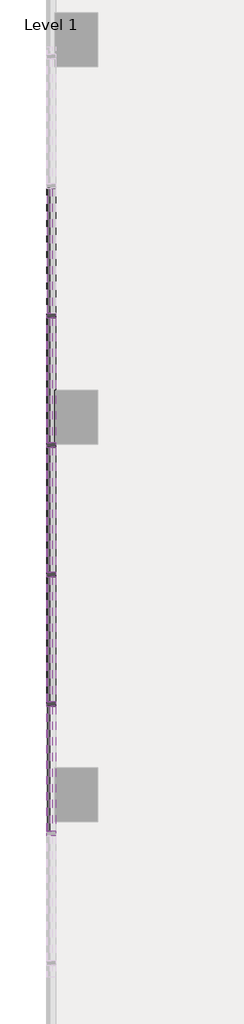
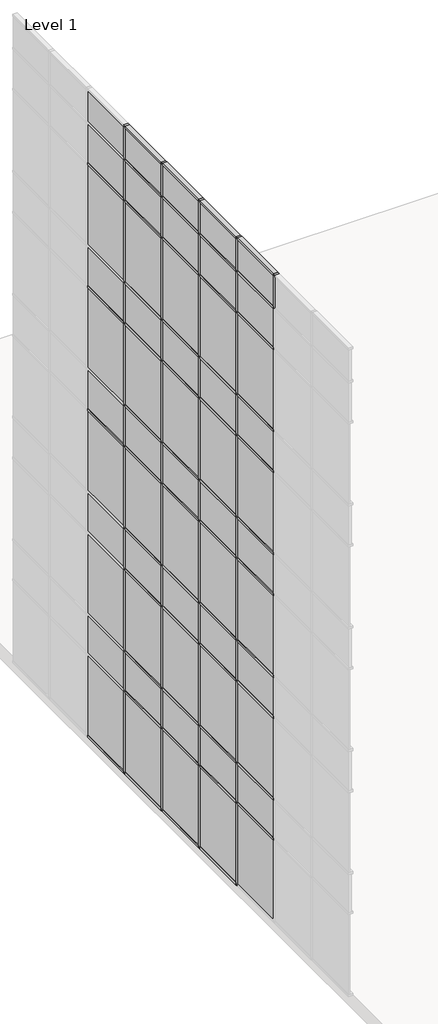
# One storey, part 3 of 23: 76 members, 55 plates.
"""IFC4 building model written with IfcOpenShell, lengths in millimetres."""

from ifc_helpers import new_model, si_unit, origin, place, context, project, spatial, transform, mapped, element, save
from components import member_f92b8aa2, member_810865a4, member_6d5c3e5e, member_9764dd38, system_panel_glazed_14c75400, system_panel_solid_5dfe6f83, system_panel_solid_e25e2004, system_panel_solid_b7551183

model = new_model("IFC4")

# Units and contexts
model_context = context("Model", 3, world=origin())
ifc_project = project(units=[si_unit("LENGTHUNIT", "METRE", prefix="MILLI")], contexts=[model_context])

# Site, building, storey
site = spatial("IfcSite", under=ifc_project)
building = spatial("IfcBuilding", under=site)
storey = spatial("IfcBuildingStorey", under=building, Name="Level 1", Elevation=0.0)

# Members
placement = place(None, origin())
member_shape = member_f92b8aa2(model_context)
element("IfcMember", 1, ObjectType="Rectangular Mullion : 2.5\" x 5\" rectangular", at=placement, inside=storey, context=model_context, shape_type="MappedRepresentation", body=[
    mapped(member_shape, transform((-68724.2599961, -14912.3103492, 18288.0), x_axis=(0.0, 1.0, 0.0), y_axis=(1.0, 0.0, 0.0), z_axis=(0.0, 0.0, -1.0))),
])
element("IfcMember", 2, ObjectType="Rectangular Mullion : 2.5\" x 5\" rectangular", at=placement, inside=storey, context=model_context, shape_type="MappedRepresentation", body=[
    mapped(member_shape, transform((-68724.2599961, -13083.5103492, 18288.0), x_axis=(0.0, 1.0, 0.0), y_axis=(1.0, 0.0, 0.0), z_axis=(0.0, 0.0, -1.0))),
])
element("IfcMember", 3, ObjectType="Rectangular Mullion : 2.5\" x 5\" rectangular", at=placement, inside=storey, context=model_context, shape_type="MappedRepresentation", body=[
    mapped(member_shape, transform((-68724.2599961, -11254.7103492, 18288.0), x_axis=(0.0, 1.0, 0.0), y_axis=(1.0, 0.0, 0.0), z_axis=(0.0, 0.0, -1.0))),
])
element("IfcMember", 4, ObjectType="Rectangular Mullion : 2.5\" x 5\" rectangular", at=placement, inside=storey, context=model_context, shape_type="MappedRepresentation", body=[
    mapped(member_shape, transform((-68724.2599961, -9425.9103492, 18288.0), x_axis=(0.0, 1.0, 0.0), y_axis=(1.0, 0.0, 0.0), z_axis=(0.0, 0.0, -1.0))),
])
element("IfcMember", 5, ObjectType="Rectangular Mullion : 2.5\" x 5\" rectangular", at=placement, inside=storey, context=model_context, shape_type="MappedRepresentation", body=[
    mapped(member_shape, transform((-68724.2599961, -7597.1103492, 18288.0), x_axis=(0.0, 1.0, 0.0), y_axis=(1.0, 0.0, 0.0), z_axis=(0.0, 0.0, -1.0))),
])
member_2_shape = member_810865a4(model_context)
element("IfcMember", 6, ObjectType="Rectangular Mullion : 2.5\" x 5\" rectangular", at=placement, inside=storey, context=model_context, shape_type="MappedRepresentation", body=[
    mapped(member_2_shape, transform((-68724.2599961, -13083.5103492, 3657.6), x_axis=(0.0, 1.0, 0.0), y_axis=(1.0, 0.0, 0.0), z_axis=(0.0, 0.0, -1.0))),
])
element("IfcMember", 7, ObjectType="Rectangular Mullion : 2.5\" x 5\" rectangular", at=placement, inside=storey, context=model_context, shape_type="MappedRepresentation", body=[
    mapped(member_2_shape, transform((-68724.2599961, -11254.7103492, 3657.6), x_axis=(0.0, 1.0, 0.0), y_axis=(1.0, 0.0, 0.0), z_axis=(0.0, 0.0, -1.0))),
])
element("IfcMember", 8, ObjectType="Rectangular Mullion : 2.5\" x 5\" rectangular", at=placement, inside=storey, context=model_context, shape_type="MappedRepresentation", body=[
    mapped(member_2_shape, transform((-68724.2599961, -9425.9103492, 3657.6), x_axis=(0.0, 1.0, 0.0), y_axis=(1.0, 0.0, 0.0), z_axis=(0.0, 0.0, -1.0))),
])
element("IfcMember", 9, ObjectType="Rectangular Mullion : 2.5\" x 5\" rectangular", at=placement, inside=storey, context=model_context, shape_type="MappedRepresentation", body=[
    mapped(member_2_shape, transform((-68724.2599961, -7597.1103492, 3657.6), x_axis=(0.0, 1.0, 0.0), y_axis=(1.0, 0.0, 0.0), z_axis=(0.0, 0.0, -1.0))),
])
element("IfcMember", 10, ObjectType="Rectangular Mullion : 2.5\" x 5\" rectangular", at=placement, inside=storey, context=model_context, shape_type="MappedRepresentation", body=[
    mapped(member_2_shape, transform((-68724.2599961, -13083.5103492, 7315.2), x_axis=(0.0, 1.0, 0.0), y_axis=(1.0, 0.0, 0.0), z_axis=(0.0, 0.0, -1.0))),
])
element("IfcMember", 11, ObjectType="Rectangular Mullion : 2.5\" x 5\" rectangular", at=placement, inside=storey, context=model_context, shape_type="MappedRepresentation", body=[
    mapped(member_2_shape, transform((-68724.2599961, -11254.7103492, 7315.2), x_axis=(0.0, 1.0, 0.0), y_axis=(1.0, 0.0, 0.0), z_axis=(0.0, 0.0, -1.0))),
])
element("IfcMember", 12, ObjectType="Rectangular Mullion : 2.5\" x 5\" rectangular", at=placement, inside=storey, context=model_context, shape_type="MappedRepresentation", body=[
    mapped(member_2_shape, transform((-68724.2599961, -9425.9103492, 7315.2), x_axis=(0.0, 1.0, 0.0), y_axis=(1.0, 0.0, 0.0), z_axis=(0.0, 0.0, -1.0))),
])
element("IfcMember", 13, ObjectType="Rectangular Mullion : 2.5\" x 5\" rectangular", at=placement, inside=storey, context=model_context, shape_type="MappedRepresentation", body=[
    mapped(member_2_shape, transform((-68724.2599961, -7597.1103492, 7315.2), x_axis=(0.0, 1.0, 0.0), y_axis=(1.0, 0.0, 0.0), z_axis=(0.0, 0.0, -1.0))),
])
element("IfcMember", 14, ObjectType="Rectangular Mullion : 2.5\" x 5\" rectangular", at=placement, inside=storey, context=model_context, shape_type="MappedRepresentation", body=[
    mapped(member_2_shape, transform((-68724.2599961, -13083.5103492, 10972.8), x_axis=(0.0, 1.0, 0.0), y_axis=(1.0, 0.0, 0.0), z_axis=(0.0, 0.0, -1.0))),
])
element("IfcMember", 15, ObjectType="Rectangular Mullion : 2.5\" x 5\" rectangular", at=placement, inside=storey, context=model_context, shape_type="MappedRepresentation", body=[
    mapped(member_2_shape, transform((-68724.2599961, -11254.7103492, 10972.8), x_axis=(0.0, 1.0, 0.0), y_axis=(1.0, 0.0, 0.0), z_axis=(0.0, 0.0, -1.0))),
])
element("IfcMember", 16, ObjectType="Rectangular Mullion : 2.5\" x 5\" rectangular", at=placement, inside=storey, context=model_context, shape_type="MappedRepresentation", body=[
    mapped(member_2_shape, transform((-68724.2599961, -9425.9103492, 10972.8), x_axis=(0.0, 1.0, 0.0), y_axis=(1.0, 0.0, 0.0), z_axis=(0.0, 0.0, -1.0))),
])
element("IfcMember", 17, ObjectType="Rectangular Mullion : 2.5\" x 5\" rectangular", at=placement, inside=storey, context=model_context, shape_type="MappedRepresentation", body=[
    mapped(member_2_shape, transform((-68724.2599961, -7597.1103492, 10972.8), x_axis=(0.0, 1.0, 0.0), y_axis=(1.0, 0.0, 0.0), z_axis=(0.0, 0.0, -1.0))),
])
element("IfcMember", 18, ObjectType="Rectangular Mullion : 2.5\" x 5\" rectangular", at=placement, inside=storey, context=model_context, shape_type="MappedRepresentation", body=[
    mapped(member_2_shape, transform((-68724.2599961, -13083.5103492, 14630.4), x_axis=(0.0, 1.0, 0.0), y_axis=(1.0, 0.0, 0.0), z_axis=(0.0, 0.0, -1.0))),
])
element("IfcMember", 19, ObjectType="Rectangular Mullion : 2.5\" x 5\" rectangular", at=placement, inside=storey, context=model_context, shape_type="MappedRepresentation", body=[
    mapped(member_2_shape, transform((-68724.2599961, -11254.7103492, 14630.4), x_axis=(0.0, 1.0, 0.0), y_axis=(1.0, 0.0, 0.0), z_axis=(0.0, 0.0, -1.0))),
])
element("IfcMember", 20, ObjectType="Rectangular Mullion : 2.5\" x 5\" rectangular", at=placement, inside=storey, context=model_context, shape_type="MappedRepresentation", body=[
    mapped(member_2_shape, transform((-68724.2599961, -9425.9103492, 14630.4), x_axis=(0.0, 1.0, 0.0), y_axis=(1.0, 0.0, 0.0), z_axis=(0.0, 0.0, -1.0))),
])
element("IfcMember", 21, ObjectType="Rectangular Mullion : 2.5\" x 5\" rectangular", at=placement, inside=storey, context=model_context, shape_type="MappedRepresentation", body=[
    mapped(member_2_shape, transform((-68724.2599961, -7597.1103492, 14630.4), x_axis=(0.0, 1.0, 0.0), y_axis=(1.0, 0.0, 0.0), z_axis=(0.0, 0.0, -1.0))),
])
member_3_shape = member_6d5c3e5e(model_context)
element("IfcMember", 22, ObjectType="Rectangular Mullion : 2.5\" x 5\" rectangular", at=placement, inside=storey, context=model_context, shape_type="MappedRepresentation", body=[
    mapped(member_3_shape, transform((-68724.2599961, -13115.2603492, 19304.0), x_axis=(0.0, 0.0, 1.0), y_axis=(1.0, 0.0, 0.0), z_axis=(0.0, 1.0, 0.0))),
])
element("IfcMember", 23, ObjectType="Rectangular Mullion : 2.5\" x 5\" rectangular", at=placement, inside=storey, context=model_context, shape_type="MappedRepresentation", body=[
    mapped(member_3_shape, transform((-68724.2599961, -11286.4603492, 19304.0), x_axis=(0.0, 0.0, 1.0), y_axis=(1.0, 0.0, 0.0), z_axis=(0.0, 1.0, 0.0))),
])
element("IfcMember", 24, ObjectType="Rectangular Mullion : 2.5\" x 5\" rectangular", at=placement, inside=storey, context=model_context, shape_type="MappedRepresentation", body=[
    mapped(member_3_shape, transform((-68724.2599961, -9457.6603492, 19304.0), x_axis=(0.0, 0.0, 1.0), y_axis=(1.0, 0.0, 0.0), z_axis=(0.0, 1.0, 0.0))),
])
element("IfcMember", 25, ObjectType="Rectangular Mullion : 2.5\" x 5\" rectangular", at=placement, inside=storey, context=model_context, shape_type="MappedRepresentation", body=[
    mapped(member_3_shape, transform((-68724.2599961, -7628.8603492, 19304.0), x_axis=(0.0, 0.0, 1.0), y_axis=(1.0, 0.0, 0.0), z_axis=(0.0, 1.0, 0.0))),
])
member_4_shape = member_9764dd38(model_context)
element("IfcMember", 26, ObjectType="Rectangular Mullion : 2.5\" x 5\" rectangular", at=placement, inside=storey, context=model_context, shape_type="MappedRepresentation", body=[
    mapped(member_4_shape, transform((-68724.2599961, -5800.0603492, 17068.8), x_axis=(0.0, 0.0, 1.0), y_axis=(1.0, 0.0, 0.0), z_axis=(0.0, 1.0, 0.0))),
])
element("IfcMember", 27, ObjectType="Rectangular Mullion : 2.5\" x 5\" rectangular", at=placement, inside=storey, context=model_context, shape_type="MappedRepresentation", body=[
    mapped(member_4_shape, transform((-68724.2599961, -7628.8603492, 17068.8), x_axis=(0.0, 0.0, 1.0), y_axis=(1.0, 0.0, 0.0), z_axis=(0.0, 1.0, 0.0))),
])
element("IfcMember", 28, ObjectType="Rectangular Mullion : 2.5\" x 5\" rectangular", at=placement, inside=storey, context=model_context, shape_type="MappedRepresentation", body=[
    mapped(member_4_shape, transform((-68724.2599961, -9457.6603492, 17068.8), x_axis=(0.0, 0.0, 1.0), y_axis=(1.0, 0.0, 0.0), z_axis=(0.0, 1.0, 0.0))),
])
element("IfcMember", 29, ObjectType="Rectangular Mullion : 2.5\" x 5\" rectangular", at=placement, inside=storey, context=model_context, shape_type="MappedRepresentation", body=[
    mapped(member_4_shape, transform((-68724.2599961, -11286.4603492, 17068.8), x_axis=(0.0, 0.0, 1.0), y_axis=(1.0, 0.0, 0.0), z_axis=(0.0, 1.0, 0.0))),
])
element("IfcMember", 30, ObjectType="Rectangular Mullion : 2.5\" x 5\" rectangular", at=placement, inside=storey, context=model_context, shape_type="MappedRepresentation", body=[
    mapped(member_4_shape, transform((-68724.2599961, -13115.2603492, 17068.8), x_axis=(0.0, 0.0, 1.0), y_axis=(1.0, 0.0, 0.0), z_axis=(0.0, 1.0, 0.0))),
])
element("IfcMember", 31, ObjectType="Rectangular Mullion : 2.5\" x 5\" rectangular", at=placement, inside=storey, context=model_context, shape_type="MappedRepresentation", body=[
    mapped(member_4_shape, transform((-68724.2599961, -5800.0603492, 13411.2), x_axis=(0.0, 0.0, 1.0), y_axis=(1.0, 0.0, 0.0), z_axis=(0.0, 1.0, 0.0))),
])
element("IfcMember", 32, ObjectType="Rectangular Mullion : 2.5\" x 5\" rectangular", at=placement, inside=storey, context=model_context, shape_type="MappedRepresentation", body=[
    mapped(member_4_shape, transform((-68724.2599961, -7628.8603492, 13411.2), x_axis=(0.0, 0.0, 1.0), y_axis=(1.0, 0.0, 0.0), z_axis=(0.0, 1.0, 0.0))),
])
element("IfcMember", 33, ObjectType="Rectangular Mullion : 2.5\" x 5\" rectangular", at=placement, inside=storey, context=model_context, shape_type="MappedRepresentation", body=[
    mapped(member_4_shape, transform((-68724.2599961, -9457.6603492, 13411.2), x_axis=(0.0, 0.0, 1.0), y_axis=(1.0, 0.0, 0.0), z_axis=(0.0, 1.0, 0.0))),
])
element("IfcMember", 34, ObjectType="Rectangular Mullion : 2.5\" x 5\" rectangular", at=placement, inside=storey, context=model_context, shape_type="MappedRepresentation", body=[
    mapped(member_4_shape, transform((-68724.2599961, -11286.4603492, 13411.2), x_axis=(0.0, 0.0, 1.0), y_axis=(1.0, 0.0, 0.0), z_axis=(0.0, 1.0, 0.0))),
])
element("IfcMember", 35, ObjectType="Rectangular Mullion : 2.5\" x 5\" rectangular", at=placement, inside=storey, context=model_context, shape_type="MappedRepresentation", body=[
    mapped(member_4_shape, transform((-68724.2599961, -13115.2603492, 13411.2), x_axis=(0.0, 0.0, 1.0), y_axis=(1.0, 0.0, 0.0), z_axis=(0.0, 1.0, 0.0))),
])
element("IfcMember", 36, ObjectType="Rectangular Mullion : 2.5\" x 5\" rectangular", at=placement, inside=storey, context=model_context, shape_type="MappedRepresentation", body=[
    mapped(member_4_shape, transform((-68724.2599961, -5800.0603492, 9753.6), x_axis=(0.0, 0.0, 1.0), y_axis=(1.0, 0.0, 0.0), z_axis=(0.0, 1.0, 0.0))),
])
element("IfcMember", 37, ObjectType="Rectangular Mullion : 2.5\" x 5\" rectangular", at=placement, inside=storey, context=model_context, shape_type="MappedRepresentation", body=[
    mapped(member_4_shape, transform((-68724.2599961, -7628.8603492, 9753.6), x_axis=(0.0, 0.0, 1.0), y_axis=(1.0, 0.0, 0.0), z_axis=(0.0, 1.0, 0.0))),
])
element("IfcMember", 38, ObjectType="Rectangular Mullion : 2.5\" x 5\" rectangular", at=placement, inside=storey, context=model_context, shape_type="MappedRepresentation", body=[
    mapped(member_4_shape, transform((-68724.2599961, -9457.6603492, 9753.6), x_axis=(0.0, 0.0, 1.0), y_axis=(1.0, 0.0, 0.0), z_axis=(0.0, 1.0, 0.0))),
])
element("IfcMember", 39, ObjectType="Rectangular Mullion : 2.5\" x 5\" rectangular", at=placement, inside=storey, context=model_context, shape_type="MappedRepresentation", body=[
    mapped(member_4_shape, transform((-68724.2599961, -11286.4603492, 9753.6), x_axis=(0.0, 0.0, 1.0), y_axis=(1.0, 0.0, 0.0), z_axis=(0.0, 1.0, 0.0))),
])
element("IfcMember", 40, ObjectType="Rectangular Mullion : 2.5\" x 5\" rectangular", at=placement, inside=storey, context=model_context, shape_type="MappedRepresentation", body=[
    mapped(member_4_shape, transform((-68724.2599961, -13115.2603492, 9753.6), x_axis=(0.0, 0.0, 1.0), y_axis=(1.0, 0.0, 0.0), z_axis=(0.0, 1.0, 0.0))),
])
element("IfcMember", 41, ObjectType="Rectangular Mullion : 2.5\" x 5\" rectangular", at=placement, inside=storey, context=model_context, shape_type="MappedRepresentation", body=[
    mapped(member_4_shape, transform((-68724.2599961, -7628.8603492, 6096.0), x_axis=(0.0, 0.0, 1.0), y_axis=(1.0, 0.0, 0.0), z_axis=(0.0, 1.0, 0.0))),
])
element("IfcMember", 42, ObjectType="Rectangular Mullion : 2.5\" x 5\" rectangular", at=placement, inside=storey, context=model_context, shape_type="MappedRepresentation", body=[
    mapped(member_4_shape, transform((-68724.2599961, -9457.6603492, 6096.0), x_axis=(0.0, 0.0, 1.0), y_axis=(1.0, 0.0, 0.0), z_axis=(0.0, 1.0, 0.0))),
])
element("IfcMember", 43, ObjectType="Rectangular Mullion : 2.5\" x 5\" rectangular", at=placement, inside=storey, context=model_context, shape_type="MappedRepresentation", body=[
    mapped(member_4_shape, transform((-68724.2599961, -11286.4603492, 6096.0), x_axis=(0.0, 0.0, 1.0), y_axis=(1.0, 0.0, 0.0), z_axis=(0.0, 1.0, 0.0))),
])
element("IfcMember", 44, ObjectType="Rectangular Mullion : 2.5\" x 5\" rectangular", at=placement, inside=storey, context=model_context, shape_type="MappedRepresentation", body=[
    mapped(member_4_shape, transform((-68724.2599961, -13115.2603492, 6096.0), x_axis=(0.0, 0.0, 1.0), y_axis=(1.0, 0.0, 0.0), z_axis=(0.0, 1.0, 0.0))),
])
element("IfcMember", 45, ObjectType="Rectangular Mullion : 2.5\" x 5\" rectangular", at=placement, inside=storey, context=model_context, shape_type="MappedRepresentation", body=[
    mapped(member_4_shape, transform((-68724.2599961, -7628.8603492, 2470.15), x_axis=(0.0, 0.0, 1.0), y_axis=(1.0, 0.0, 0.0), z_axis=(0.0, 1.0, 0.0))),
])
element("IfcMember", 46, ObjectType="Rectangular Mullion : 2.5\" x 5\" rectangular", at=placement, inside=storey, context=model_context, shape_type="MappedRepresentation", body=[
    mapped(member_4_shape, transform((-68724.2599961, -9457.6603492, 2470.15), x_axis=(0.0, 0.0, 1.0), y_axis=(1.0, 0.0, 0.0), z_axis=(0.0, 1.0, 0.0))),
])
element("IfcMember", 47, ObjectType="Rectangular Mullion : 2.5\" x 5\" rectangular", at=placement, inside=storey, context=model_context, shape_type="MappedRepresentation", body=[
    mapped(member_4_shape, transform((-68724.2599961, -11286.4603492, 2470.15), x_axis=(0.0, 0.0, 1.0), y_axis=(1.0, 0.0, 0.0), z_axis=(0.0, 1.0, 0.0))),
])
element("IfcMember", 48, ObjectType="Rectangular Mullion : 2.5\" x 5\" rectangular", at=placement, inside=storey, context=model_context, shape_type="MappedRepresentation", body=[
    mapped(member_4_shape, transform((-68724.2599961, -13115.2603492, 2470.15), x_axis=(0.0, 0.0, 1.0), y_axis=(1.0, 0.0, 0.0), z_axis=(0.0, 1.0, 0.0))),
])
element("IfcMember", 49, ObjectType="Rectangular Mullion : 2.5\" x 5\" rectangular", at=placement, inside=storey, context=model_context, shape_type="MappedRepresentation", body=[
    mapped(member_2_shape, transform((-68724.2599961, -13083.5103492, 0.0), x_axis=(0.0, 1.0, 0.0), y_axis=(1.0, 0.0, 0.0), z_axis=(0.0, 0.0, -1.0))),
])
element("IfcMember", 50, ObjectType="Rectangular Mullion : 2.5\" x 5\" rectangular", at=placement, inside=storey, context=model_context, shape_type="MappedRepresentation", body=[
    mapped(member_2_shape, transform((-68724.2599961, -11254.7103492, 0.0), x_axis=(0.0, 1.0, 0.0), y_axis=(1.0, 0.0, 0.0), z_axis=(0.0, 0.0, -1.0))),
])
element("IfcMember", 51, ObjectType="Rectangular Mullion : 2.5\" x 5\" rectangular", at=placement, inside=storey, context=model_context, shape_type="MappedRepresentation", body=[
    mapped(member_2_shape, transform((-68724.2599961, -9425.9103492, 0.0), x_axis=(0.0, 1.0, 0.0), y_axis=(1.0, 0.0, 0.0), z_axis=(0.0, 0.0, -1.0))),
])
element("IfcMember", 52, ObjectType="Rectangular Mullion : 2.5\" x 5\" rectangular", at=placement, inside=storey, context=model_context, shape_type="MappedRepresentation", body=[
    mapped(member_2_shape, transform((-68724.2599961, -7597.1103492, 0.0), x_axis=(0.0, 1.0, 0.0), y_axis=(1.0, 0.0, 0.0), z_axis=(0.0, 0.0, -1.0))),
])
element("IfcMember", 53, ObjectType="Rectangular Mullion : 2.5\" x 5\" rectangular", at=placement, inside=storey, context=model_context, shape_type="MappedRepresentation", body=[
    mapped(member_3_shape, transform((-68724.2599961, -13051.7603492, 0.0), x_axis=(0.0, 0.0, -1.0), y_axis=(1.0, 0.0, 0.0), z_axis=(0.0, -1.0, 0.0))),
])
element("IfcMember", 54, ObjectType="Rectangular Mullion : 2.5\" x 5\" rectangular", at=placement, inside=storey, context=model_context, shape_type="MappedRepresentation", body=[
    mapped(member_3_shape, transform((-68724.2599961, -11222.9603492, 0.0), x_axis=(0.0, 0.0, -1.0), y_axis=(1.0, 0.0, 0.0), z_axis=(0.0, -1.0, 0.0))),
])
element("IfcMember", 55, ObjectType="Rectangular Mullion : 2.5\" x 5\" rectangular", at=placement, inside=storey, context=model_context, shape_type="MappedRepresentation", body=[
    mapped(member_3_shape, transform((-68724.2599961, -9394.1603492, 0.0), x_axis=(0.0, 0.0, -1.0), y_axis=(1.0, 0.0, 0.0), z_axis=(0.0, -1.0, 0.0))),
])
element("IfcMember", 56, ObjectType="Rectangular Mullion : 2.5\" x 5\" rectangular", at=placement, inside=storey, context=model_context, shape_type="MappedRepresentation", body=[
    mapped(member_3_shape, transform((-68724.2599961, -7565.3603492, 0.0), x_axis=(0.0, 0.0, -1.0), y_axis=(1.0, 0.0, 0.0), z_axis=(0.0, -1.0, 0.0))),
])
element("IfcMember", 57, ObjectType="Rectangular Mullion : 2.5\" x 5\" rectangular", at=placement, inside=storey, context=model_context, shape_type="MappedRepresentation", body=[
    mapped(member_4_shape, transform((-68724.2599961, -13115.2603492, 3657.6), x_axis=(0.0, 0.0, 1.0), y_axis=(1.0, 0.0, 0.0), z_axis=(0.0, 1.0, 0.0))),
])
element("IfcMember", 58, ObjectType="Rectangular Mullion : 2.5\" x 5\" rectangular", at=placement, inside=storey, context=model_context, shape_type="MappedRepresentation", body=[
    mapped(member_4_shape, transform((-68724.2599961, -11286.4603492, 3657.6), x_axis=(0.0, 0.0, 1.0), y_axis=(1.0, 0.0, 0.0), z_axis=(0.0, 1.0, 0.0))),
])
element("IfcMember", 59, ObjectType="Rectangular Mullion : 2.5\" x 5\" rectangular", at=placement, inside=storey, context=model_context, shape_type="MappedRepresentation", body=[
    mapped(member_4_shape, transform((-68724.2599961, -9457.6603492, 3657.6), x_axis=(0.0, 0.0, 1.0), y_axis=(1.0, 0.0, 0.0), z_axis=(0.0, 1.0, 0.0))),
])
element("IfcMember", 60, ObjectType="Rectangular Mullion : 2.5\" x 5\" rectangular", at=placement, inside=storey, context=model_context, shape_type="MappedRepresentation", body=[
    mapped(member_4_shape, transform((-68724.2599961, -7628.8603492, 3657.6), x_axis=(0.0, 0.0, 1.0), y_axis=(1.0, 0.0, 0.0), z_axis=(0.0, 1.0, 0.0))),
])
element("IfcMember", 61, ObjectType="Rectangular Mullion : 2.5\" x 5\" rectangular", at=placement, inside=storey, context=model_context, shape_type="MappedRepresentation", body=[
    mapped(member_4_shape, transform((-68724.2599961, -13115.2603492, 7315.2), x_axis=(0.0, 0.0, 1.0), y_axis=(1.0, 0.0, 0.0), z_axis=(0.0, 1.0, 0.0))),
])
element("IfcMember", 62, ObjectType="Rectangular Mullion : 2.5\" x 5\" rectangular", at=placement, inside=storey, context=model_context, shape_type="MappedRepresentation", body=[
    mapped(member_4_shape, transform((-68724.2599961, -11286.4603492, 7315.2), x_axis=(0.0, 0.0, 1.0), y_axis=(1.0, 0.0, 0.0), z_axis=(0.0, 1.0, 0.0))),
])
element("IfcMember", 63, ObjectType="Rectangular Mullion : 2.5\" x 5\" rectangular", at=placement, inside=storey, context=model_context, shape_type="MappedRepresentation", body=[
    mapped(member_4_shape, transform((-68724.2599961, -9457.6603492, 7315.2), x_axis=(0.0, 0.0, 1.0), y_axis=(1.0, 0.0, 0.0), z_axis=(0.0, 1.0, 0.0))),
])
element("IfcMember", 64, ObjectType="Rectangular Mullion : 2.5\" x 5\" rectangular", at=placement, inside=storey, context=model_context, shape_type="MappedRepresentation", body=[
    mapped(member_4_shape, transform((-68724.2599961, -7628.8603492, 7315.2), x_axis=(0.0, 0.0, 1.0), y_axis=(1.0, 0.0, 0.0), z_axis=(0.0, 1.0, 0.0))),
])
element("IfcMember", 65, ObjectType="Rectangular Mullion : 2.5\" x 5\" rectangular", at=placement, inside=storey, context=model_context, shape_type="MappedRepresentation", body=[
    mapped(member_4_shape, transform((-68724.2599961, -13115.2603492, 10972.8), x_axis=(0.0, 0.0, 1.0), y_axis=(1.0, 0.0, 0.0), z_axis=(0.0, 1.0, 0.0))),
])
element("IfcMember", 66, ObjectType="Rectangular Mullion : 2.5\" x 5\" rectangular", at=placement, inside=storey, context=model_context, shape_type="MappedRepresentation", body=[
    mapped(member_4_shape, transform((-68724.2599961, -11286.4603492, 10972.8), x_axis=(0.0, 0.0, 1.0), y_axis=(1.0, 0.0, 0.0), z_axis=(0.0, 1.0, 0.0))),
])
element("IfcMember", 67, ObjectType="Rectangular Mullion : 2.5\" x 5\" rectangular", at=placement, inside=storey, context=model_context, shape_type="MappedRepresentation", body=[
    mapped(member_4_shape, transform((-68724.2599961, -9457.6603492, 10972.8), x_axis=(0.0, 0.0, 1.0), y_axis=(1.0, 0.0, 0.0), z_axis=(0.0, 1.0, 0.0))),
])
element("IfcMember", 68, ObjectType="Rectangular Mullion : 2.5\" x 5\" rectangular", at=placement, inside=storey, context=model_context, shape_type="MappedRepresentation", body=[
    mapped(member_4_shape, transform((-68724.2599961, -7628.8603492, 10972.8), x_axis=(0.0, 0.0, 1.0), y_axis=(1.0, 0.0, 0.0), z_axis=(0.0, 1.0, 0.0))),
])
element("IfcMember", 69, ObjectType="Rectangular Mullion : 2.5\" x 5\" rectangular", at=placement, inside=storey, context=model_context, shape_type="MappedRepresentation", body=[
    mapped(member_4_shape, transform((-68724.2599961, -13115.2603492, 14630.4), x_axis=(0.0, 0.0, 1.0), y_axis=(1.0, 0.0, 0.0), z_axis=(0.0, 1.0, 0.0))),
])
element("IfcMember", 70, ObjectType="Rectangular Mullion : 2.5\" x 5\" rectangular", at=placement, inside=storey, context=model_context, shape_type="MappedRepresentation", body=[
    mapped(member_4_shape, transform((-68724.2599961, -11286.4603492, 14630.4), x_axis=(0.0, 0.0, 1.0), y_axis=(1.0, 0.0, 0.0), z_axis=(0.0, 1.0, 0.0))),
])
element("IfcMember", 71, ObjectType="Rectangular Mullion : 2.5\" x 5\" rectangular", at=placement, inside=storey, context=model_context, shape_type="MappedRepresentation", body=[
    mapped(member_4_shape, transform((-68724.2599961, -9457.6603492, 14630.4), x_axis=(0.0, 0.0, 1.0), y_axis=(1.0, 0.0, 0.0), z_axis=(0.0, 1.0, 0.0))),
])
element("IfcMember", 72, ObjectType="Rectangular Mullion : 2.5\" x 5\" rectangular", at=placement, inside=storey, context=model_context, shape_type="MappedRepresentation", body=[
    mapped(member_4_shape, transform((-68724.2599961, -7628.8603492, 14630.4), x_axis=(0.0, 0.0, 1.0), y_axis=(1.0, 0.0, 0.0), z_axis=(0.0, 1.0, 0.0))),
])
element("IfcMember", 73, ObjectType="Rectangular Mullion : 2.5\" x 5\" rectangular", at=placement, inside=storey, context=model_context, shape_type="MappedRepresentation", body=[
    mapped(member_4_shape, transform((-68724.2599961, -13115.2603492, 18288.0), x_axis=(0.0, 0.0, 1.0), y_axis=(1.0, 0.0, 0.0), z_axis=(0.0, 1.0, 0.0))),
])
element("IfcMember", 74, ObjectType="Rectangular Mullion : 2.5\" x 5\" rectangular", at=placement, inside=storey, context=model_context, shape_type="MappedRepresentation", body=[
    mapped(member_4_shape, transform((-68724.2599961, -11286.4603492, 18288.0), x_axis=(0.0, 0.0, 1.0), y_axis=(1.0, 0.0, 0.0), z_axis=(0.0, 1.0, 0.0))),
])
element("IfcMember", 75, ObjectType="Rectangular Mullion : 2.5\" x 5\" rectangular", at=placement, inside=storey, context=model_context, shape_type="MappedRepresentation", body=[
    mapped(member_4_shape, transform((-68724.2599961, -9457.6603492, 18288.0), x_axis=(0.0, 0.0, 1.0), y_axis=(1.0, 0.0, 0.0), z_axis=(0.0, 1.0, 0.0))),
])
element("IfcMember", 76, ObjectType="Rectangular Mullion : 2.5\" x 5\" rectangular", at=placement, inside=storey, context=model_context, shape_type="MappedRepresentation", body=[
    mapped(member_4_shape, transform((-68724.2599961, -7628.8603492, 18288.0), x_axis=(0.0, 0.0, 1.0), y_axis=(1.0, 0.0, 0.0), z_axis=(0.0, 1.0, 0.0))),
])

# Plates
system_panel_glazed_shape = system_panel_glazed_14c75400(model_context)
element("IfcPlate", 77, ObjectType="System Panel : Glazed", at=placement, inside=storey, context=model_context, shape_type="MappedRepresentation", body=[
    mapped(system_panel_glazed_shape, transform((-68724.2599961, -6682.7103492, 14662.15), x_axis=(0.0, 1.0, 0.0), y_axis=(-1.0, 0.0, 0.0), z_axis=(0.0, 0.0, 1.0))),
])
element("IfcPlate", 78, ObjectType="System Panel : Glazed", at=placement, inside=storey, context=model_context, shape_type="MappedRepresentation", body=[
    mapped(system_panel_glazed_shape, transform((-68724.2599961, -8511.5103492, 14662.15), x_axis=(0.0, 1.0, 0.0), y_axis=(-1.0, 0.0, 0.0), z_axis=(0.0, 0.0, 1.0))),
])
element("IfcPlate", 79, ObjectType="System Panel : Glazed", at=placement, inside=storey, context=model_context, shape_type="MappedRepresentation", body=[
    mapped(system_panel_glazed_shape, transform((-68724.2599961, -10340.3103492, 14662.15), x_axis=(0.0, 1.0, 0.0), y_axis=(-1.0, 0.0, 0.0), z_axis=(0.0, 0.0, 1.0))),
])
element("IfcPlate", 80, ObjectType="System Panel : Glazed", at=placement, inside=storey, context=model_context, shape_type="MappedRepresentation", body=[
    mapped(system_panel_glazed_shape, transform((-68724.2599961, -12169.1103492, 14662.15), x_axis=(0.0, 1.0, 0.0), y_axis=(-1.0, 0.0, 0.0), z_axis=(0.0, 0.0, 1.0))),
])
element("IfcPlate", 81, ObjectType="System Panel : Glazed", at=placement, inside=storey, context=model_context, shape_type="MappedRepresentation", body=[
    mapped(system_panel_glazed_shape, transform((-68724.2599961, -13997.9103492, 14662.15), x_axis=(0.0, 1.0, 0.0), y_axis=(-1.0, 0.0, 0.0), z_axis=(0.0, 0.0, 1.0))),
])
element("IfcPlate", 82, ObjectType="System Panel : Glazed", at=placement, inside=storey, context=model_context, shape_type="MappedRepresentation", body=[
    mapped(system_panel_glazed_shape, transform((-68724.2599961, -6682.7103492, 11004.55), x_axis=(0.0, 1.0, 0.0), y_axis=(-1.0, 0.0, 0.0), z_axis=(0.0, 0.0, 1.0))),
])
element("IfcPlate", 83, ObjectType="System Panel : Glazed", at=placement, inside=storey, context=model_context, shape_type="MappedRepresentation", body=[
    mapped(system_panel_glazed_shape, transform((-68724.2599961, -8511.5103492, 11004.55), x_axis=(0.0, 1.0, 0.0), y_axis=(-1.0, 0.0, 0.0), z_axis=(0.0, 0.0, 1.0))),
])
element("IfcPlate", 84, ObjectType="System Panel : Glazed", at=placement, inside=storey, context=model_context, shape_type="MappedRepresentation", body=[
    mapped(system_panel_glazed_shape, transform((-68724.2599961, -10340.3103492, 11004.55), x_axis=(0.0, 1.0, 0.0), y_axis=(-1.0, 0.0, 0.0), z_axis=(0.0, 0.0, 1.0))),
])
element("IfcPlate", 85, ObjectType="System Panel : Glazed", at=placement, inside=storey, context=model_context, shape_type="MappedRepresentation", body=[
    mapped(system_panel_glazed_shape, transform((-68724.2599961, -12169.1103492, 11004.55), x_axis=(0.0, 1.0, 0.0), y_axis=(-1.0, 0.0, 0.0), z_axis=(0.0, 0.0, 1.0))),
])
element("IfcPlate", 86, ObjectType="System Panel : Glazed", at=placement, inside=storey, context=model_context, shape_type="MappedRepresentation", body=[
    mapped(system_panel_glazed_shape, transform((-68724.2599961, -13997.9103492, 11004.55), x_axis=(0.0, 1.0, 0.0), y_axis=(-1.0, 0.0, 0.0), z_axis=(0.0, 0.0, 1.0))),
])
element("IfcPlate", 87, ObjectType="System Panel : Glazed", at=placement, inside=storey, context=model_context, shape_type="MappedRepresentation", body=[
    mapped(system_panel_glazed_shape, transform((-68724.2599961, -6682.7103492, 7346.95), x_axis=(0.0, 1.0, 0.0), y_axis=(-1.0, 0.0, 0.0), z_axis=(0.0, 0.0, 1.0))),
])
element("IfcPlate", 88, ObjectType="System Panel : Glazed", at=placement, inside=storey, context=model_context, shape_type="MappedRepresentation", body=[
    mapped(system_panel_glazed_shape, transform((-68724.2599961, -8511.5103492, 7346.95), x_axis=(0.0, 1.0, 0.0), y_axis=(-1.0, 0.0, 0.0), z_axis=(0.0, 0.0, 1.0))),
])
element("IfcPlate", 89, ObjectType="System Panel : Glazed", at=placement, inside=storey, context=model_context, shape_type="MappedRepresentation", body=[
    mapped(system_panel_glazed_shape, transform((-68724.2599961, -10340.3103492, 7346.95), x_axis=(0.0, 1.0, 0.0), y_axis=(-1.0, 0.0, 0.0), z_axis=(0.0, 0.0, 1.0))),
])
element("IfcPlate", 90, ObjectType="System Panel : Glazed", at=placement, inside=storey, context=model_context, shape_type="MappedRepresentation", body=[
    mapped(system_panel_glazed_shape, transform((-68724.2599961, -12169.1103492, 7346.95), x_axis=(0.0, 1.0, 0.0), y_axis=(-1.0, 0.0, 0.0), z_axis=(0.0, 0.0, 1.0))),
])
element("IfcPlate", 91, ObjectType="System Panel : Glazed", at=placement, inside=storey, context=model_context, shape_type="MappedRepresentation", body=[
    mapped(system_panel_glazed_shape, transform((-68724.2599961, -13997.9103492, 7346.95), x_axis=(0.0, 1.0, 0.0), y_axis=(-1.0, 0.0, 0.0), z_axis=(0.0, 0.0, 1.0))),
])
element("IfcPlate", 92, ObjectType="System Panel : Glazed", at=placement, inside=storey, context=model_context, shape_type="MappedRepresentation", body=[
    mapped(system_panel_glazed_shape, transform((-68724.2599961, -6682.7103492, 3689.35), x_axis=(0.0, 1.0, 0.0), y_axis=(-1.0, 0.0, 0.0), z_axis=(0.0, 0.0, 1.0))),
])
element("IfcPlate", 93, ObjectType="System Panel : Glazed", at=placement, inside=storey, context=model_context, shape_type="MappedRepresentation", body=[
    mapped(system_panel_glazed_shape, transform((-68724.2599961, -8511.5103492, 3689.35), x_axis=(0.0, 1.0, 0.0), y_axis=(-1.0, 0.0, 0.0), z_axis=(0.0, 0.0, 1.0))),
])
element("IfcPlate", 94, ObjectType="System Panel : Glazed", at=placement, inside=storey, context=model_context, shape_type="MappedRepresentation", body=[
    mapped(system_panel_glazed_shape, transform((-68724.2599961, -10340.3103492, 3689.35), x_axis=(0.0, 1.0, 0.0), y_axis=(-1.0, 0.0, 0.0), z_axis=(0.0, 0.0, 1.0))),
])
element("IfcPlate", 95, ObjectType="System Panel : Glazed", at=placement, inside=storey, context=model_context, shape_type="MappedRepresentation", body=[
    mapped(system_panel_glazed_shape, transform((-68724.2599961, -12169.1103492, 3689.35), x_axis=(0.0, 1.0, 0.0), y_axis=(-1.0, 0.0, 0.0), z_axis=(0.0, 0.0, 1.0))),
])
element("IfcPlate", 96, ObjectType="System Panel : Glazed", at=placement, inside=storey, context=model_context, shape_type="MappedRepresentation", body=[
    mapped(system_panel_glazed_shape, transform((-68724.2599961, -13997.9103492, 3689.35), x_axis=(0.0, 1.0, 0.0), y_axis=(-1.0, 0.0, 0.0), z_axis=(0.0, 0.0, 1.0))),
])
element("IfcPlate", 97, ObjectType="System Panel : Glazed", at=placement, inside=storey, context=model_context, shape_type="MappedRepresentation", body=[
    mapped(system_panel_glazed_shape, transform((-68724.2599961, -6682.7103492, 63.5), x_axis=(0.0, 1.0, 0.0), y_axis=(-1.0, 0.0, 0.0), z_axis=(0.0, 0.0, 1.0))),
])
element("IfcPlate", 98, ObjectType="System Panel : Glazed", at=placement, inside=storey, context=model_context, shape_type="MappedRepresentation", body=[
    mapped(system_panel_glazed_shape, transform((-68724.2599961, -8511.5103492, 63.5), x_axis=(0.0, 1.0, 0.0), y_axis=(-1.0, 0.0, 0.0), z_axis=(0.0, 0.0, 1.0))),
])
element("IfcPlate", 99, ObjectType="System Panel : Glazed", at=placement, inside=storey, context=model_context, shape_type="MappedRepresentation", body=[
    mapped(system_panel_glazed_shape, transform((-68724.2599961, -10340.3103492, 63.5), x_axis=(0.0, 1.0, 0.0), y_axis=(-1.0, 0.0, 0.0), z_axis=(0.0, 0.0, 1.0))),
])
element("IfcPlate", 100, ObjectType="System Panel : Glazed", at=placement, inside=storey, context=model_context, shape_type="MappedRepresentation", body=[
    mapped(system_panel_glazed_shape, transform((-68724.2599961, -12169.1103492, 63.5), x_axis=(0.0, 1.0, 0.0), y_axis=(-1.0, 0.0, 0.0), z_axis=(0.0, 0.0, 1.0))),
])
element("IfcPlate", 101, ObjectType="System Panel : Glazed", at=placement, inside=storey, context=model_context, shape_type="MappedRepresentation", body=[
    mapped(system_panel_glazed_shape, transform((-68724.2599961, -13997.9103492, 63.5), x_axis=(0.0, 1.0, 0.0), y_axis=(-1.0, 0.0, 0.0), z_axis=(0.0, 0.0, 1.0))),
])
system_panel_solid_shape = system_panel_solid_5dfe6f83(model_context)
element("IfcPlate", 102, ObjectType="System Panel : Solid", at=placement, inside=storey, context=model_context, shape_type="MappedRepresentation", body=[
    mapped(system_panel_solid_shape, transform((-68724.2599961, -13997.9103492, 18319.75), x_axis=(0.0, 1.0, 0.0), y_axis=(-1.0, 0.0, 0.0), z_axis=(0.0, 0.0, 1.0))),
])
element("IfcPlate", 103, ObjectType="System Panel : Solid", at=placement, inside=storey, context=model_context, shape_type="MappedRepresentation", body=[
    mapped(system_panel_solid_shape, transform((-68724.2599961, -12169.1103492, 18319.75), x_axis=(0.0, 1.0, 0.0), y_axis=(-1.0, 0.0, 0.0), z_axis=(0.0, 0.0, 1.0))),
])
element("IfcPlate", 104, ObjectType="System Panel : Solid", at=placement, inside=storey, context=model_context, shape_type="MappedRepresentation", body=[
    mapped(system_panel_solid_shape, transform((-68724.2599961, -10340.3103492, 18319.75), x_axis=(0.0, 1.0, 0.0), y_axis=(-1.0, 0.0, 0.0), z_axis=(0.0, 0.0, 1.0))),
])
element("IfcPlate", 105, ObjectType="System Panel : Solid", at=placement, inside=storey, context=model_context, shape_type="MappedRepresentation", body=[
    mapped(system_panel_solid_shape, transform((-68724.2599961, -8511.5103492, 18319.75), x_axis=(0.0, 1.0, 0.0), y_axis=(-1.0, 0.0, 0.0), z_axis=(0.0, 0.0, 1.0))),
])
element("IfcPlate", 106, ObjectType="System Panel : Solid", at=placement, inside=storey, context=model_context, shape_type="MappedRepresentation", body=[
    mapped(system_panel_solid_shape, transform((-68724.2599961, -6682.7103492, 18319.75), x_axis=(0.0, 1.0, 0.0), y_axis=(-1.0, 0.0, 0.0), z_axis=(0.0, 0.0, 1.0))),
])
system_panel_solid_2_shape = system_panel_solid_e25e2004(model_context)
element("IfcPlate", 107, ObjectType="System Panel : Solid", at=placement, inside=storey, context=model_context, shape_type="MappedRepresentation", body=[
    mapped(system_panel_solid_2_shape, transform((-68724.2599961, -6682.7103492, 17100.55), x_axis=(0.0, 1.0, 0.0), y_axis=(-1.0, 0.0, 0.0), z_axis=(0.0, 0.0, 1.0))),
])
element("IfcPlate", 108, ObjectType="System Panel : Solid", at=placement, inside=storey, context=model_context, shape_type="MappedRepresentation", body=[
    mapped(system_panel_solid_2_shape, transform((-68724.2599961, -8511.5103492, 17100.55), x_axis=(0.0, 1.0, 0.0), y_axis=(-1.0, 0.0, 0.0), z_axis=(0.0, 0.0, 1.0))),
])
element("IfcPlate", 109, ObjectType="System Panel : Solid", at=placement, inside=storey, context=model_context, shape_type="MappedRepresentation", body=[
    mapped(system_panel_solid_2_shape, transform((-68724.2599961, -10340.3103492, 17100.55), x_axis=(0.0, 1.0, 0.0), y_axis=(-1.0, 0.0, 0.0), z_axis=(0.0, 0.0, 1.0))),
])
element("IfcPlate", 110, ObjectType="System Panel : Solid", at=placement, inside=storey, context=model_context, shape_type="MappedRepresentation", body=[
    mapped(system_panel_solid_2_shape, transform((-68724.2599961, -12169.1103492, 17100.55), x_axis=(0.0, 1.0, 0.0), y_axis=(-1.0, 0.0, 0.0), z_axis=(0.0, 0.0, 1.0))),
])
element("IfcPlate", 111, ObjectType="System Panel : Solid", at=placement, inside=storey, context=model_context, shape_type="MappedRepresentation", body=[
    mapped(system_panel_solid_2_shape, transform((-68724.2599961, -13997.9103492, 17100.55), x_axis=(0.0, 1.0, 0.0), y_axis=(-1.0, 0.0, 0.0), z_axis=(0.0, 0.0, 1.0))),
])
element("IfcPlate", 112, ObjectType="System Panel : Solid", at=placement, inside=storey, context=model_context, shape_type="MappedRepresentation", body=[
    mapped(system_panel_solid_2_shape, transform((-68724.2599961, -6682.7103492, 13442.95), x_axis=(0.0, 1.0, 0.0), y_axis=(-1.0, 0.0, 0.0), z_axis=(0.0, 0.0, 1.0))),
])
element("IfcPlate", 113, ObjectType="System Panel : Solid", at=placement, inside=storey, context=model_context, shape_type="MappedRepresentation", body=[
    mapped(system_panel_solid_2_shape, transform((-68724.2599961, -8511.5103492, 13442.95), x_axis=(0.0, 1.0, 0.0), y_axis=(-1.0, 0.0, 0.0), z_axis=(0.0, 0.0, 1.0))),
])
element("IfcPlate", 114, ObjectType="System Panel : Solid", at=placement, inside=storey, context=model_context, shape_type="MappedRepresentation", body=[
    mapped(system_panel_solid_2_shape, transform((-68724.2599961, -10340.3103492, 13442.95), x_axis=(0.0, 1.0, 0.0), y_axis=(-1.0, 0.0, 0.0), z_axis=(0.0, 0.0, 1.0))),
])
element("IfcPlate", 115, ObjectType="System Panel : Solid", at=placement, inside=storey, context=model_context, shape_type="MappedRepresentation", body=[
    mapped(system_panel_solid_2_shape, transform((-68724.2599961, -12169.1103492, 13442.95), x_axis=(0.0, 1.0, 0.0), y_axis=(-1.0, 0.0, 0.0), z_axis=(0.0, 0.0, 1.0))),
])
element("IfcPlate", 116, ObjectType="System Panel : Solid", at=placement, inside=storey, context=model_context, shape_type="MappedRepresentation", body=[
    mapped(system_panel_solid_2_shape, transform((-68724.2599961, -13997.9103492, 13442.95), x_axis=(0.0, 1.0, 0.0), y_axis=(-1.0, 0.0, 0.0), z_axis=(0.0, 0.0, 1.0))),
])
element("IfcPlate", 117, ObjectType="System Panel : Solid", at=placement, inside=storey, context=model_context, shape_type="MappedRepresentation", body=[
    mapped(system_panel_solid_2_shape, transform((-68724.2599961, -6682.7103492, 9785.35), x_axis=(0.0, 1.0, 0.0), y_axis=(-1.0, 0.0, 0.0), z_axis=(0.0, 0.0, 1.0))),
])
element("IfcPlate", 118, ObjectType="System Panel : Solid", at=placement, inside=storey, context=model_context, shape_type="MappedRepresentation", body=[
    mapped(system_panel_solid_2_shape, transform((-68724.2599961, -8511.5103492, 9785.35), x_axis=(0.0, 1.0, 0.0), y_axis=(-1.0, 0.0, 0.0), z_axis=(0.0, 0.0, 1.0))),
])
element("IfcPlate", 119, ObjectType="System Panel : Solid", at=placement, inside=storey, context=model_context, shape_type="MappedRepresentation", body=[
    mapped(system_panel_solid_2_shape, transform((-68724.2599961, -10340.3103492, 9785.35), x_axis=(0.0, 1.0, 0.0), y_axis=(-1.0, 0.0, 0.0), z_axis=(0.0, 0.0, 1.0))),
])
element("IfcPlate", 120, ObjectType="System Panel : Solid", at=placement, inside=storey, context=model_context, shape_type="MappedRepresentation", body=[
    mapped(system_panel_solid_2_shape, transform((-68724.2599961, -12169.1103492, 9785.35), x_axis=(0.0, 1.0, 0.0), y_axis=(-1.0, 0.0, 0.0), z_axis=(0.0, 0.0, 1.0))),
])
element("IfcPlate", 121, ObjectType="System Panel : Solid", at=placement, inside=storey, context=model_context, shape_type="MappedRepresentation", body=[
    mapped(system_panel_solid_2_shape, transform((-68724.2599961, -13997.9103492, 9785.35), x_axis=(0.0, 1.0, 0.0), y_axis=(-1.0, 0.0, 0.0), z_axis=(0.0, 0.0, 1.0))),
])
element("IfcPlate", 122, ObjectType="System Panel : Solid", at=placement, inside=storey, context=model_context, shape_type="MappedRepresentation", body=[
    mapped(system_panel_solid_2_shape, transform((-68724.2599961, -6682.7103492, 6127.75), x_axis=(0.0, 1.0, 0.0), y_axis=(-1.0, 0.0, 0.0), z_axis=(0.0, 0.0, 1.0))),
])
element("IfcPlate", 123, ObjectType="System Panel : Solid", at=placement, inside=storey, context=model_context, shape_type="MappedRepresentation", body=[
    mapped(system_panel_solid_2_shape, transform((-68724.2599961, -8511.5103492, 6127.75), x_axis=(0.0, 1.0, 0.0), y_axis=(-1.0, 0.0, 0.0), z_axis=(0.0, 0.0, 1.0))),
])
element("IfcPlate", 124, ObjectType="System Panel : Solid", at=placement, inside=storey, context=model_context, shape_type="MappedRepresentation", body=[
    mapped(system_panel_solid_2_shape, transform((-68724.2599961, -10340.3103492, 6127.75), x_axis=(0.0, 1.0, 0.0), y_axis=(-1.0, 0.0, 0.0), z_axis=(0.0, 0.0, 1.0))),
])
element("IfcPlate", 125, ObjectType="System Panel : Solid", at=placement, inside=storey, context=model_context, shape_type="MappedRepresentation", body=[
    mapped(system_panel_solid_2_shape, transform((-68724.2599961, -12169.1103492, 6127.75), x_axis=(0.0, 1.0, 0.0), y_axis=(-1.0, 0.0, 0.0), z_axis=(0.0, 0.0, 1.0))),
])
element("IfcPlate", 126, ObjectType="System Panel : Solid", at=placement, inside=storey, context=model_context, shape_type="MappedRepresentation", body=[
    mapped(system_panel_solid_2_shape, transform((-68724.2599961, -13997.9103492, 6127.75), x_axis=(0.0, 1.0, 0.0), y_axis=(-1.0, 0.0, 0.0), z_axis=(0.0, 0.0, 1.0))),
])
system_panel_solid_3_shape = system_panel_solid_b7551183(model_context)
element("IfcPlate", 127, ObjectType="System Panel : Solid", at=placement, inside=storey, context=model_context, shape_type="MappedRepresentation", body=[
    mapped(system_panel_solid_3_shape, transform((-68724.2599961, -6682.7103492, 2501.9), x_axis=(0.0, 1.0, 0.0), y_axis=(-1.0, 0.0, 0.0), z_axis=(0.0, 0.0, 1.0))),
])
element("IfcPlate", 128, ObjectType="System Panel : Solid", at=placement, inside=storey, context=model_context, shape_type="MappedRepresentation", body=[
    mapped(system_panel_solid_3_shape, transform((-68724.2599961, -8511.5103492, 2501.9), x_axis=(0.0, 1.0, 0.0), y_axis=(-1.0, 0.0, 0.0), z_axis=(0.0, 0.0, 1.0))),
])
element("IfcPlate", 129, ObjectType="System Panel : Solid", at=placement, inside=storey, context=model_context, shape_type="MappedRepresentation", body=[
    mapped(system_panel_solid_3_shape, transform((-68724.2599961, -10340.3103492, 2501.9), x_axis=(0.0, 1.0, 0.0), y_axis=(-1.0, 0.0, 0.0), z_axis=(0.0, 0.0, 1.0))),
])
element("IfcPlate", 130, ObjectType="System Panel : Solid", at=placement, inside=storey, context=model_context, shape_type="MappedRepresentation", body=[
    mapped(system_panel_solid_3_shape, transform((-68724.2599961, -12169.1103492, 2501.9), x_axis=(0.0, 1.0, 0.0), y_axis=(-1.0, 0.0, 0.0), z_axis=(0.0, 0.0, 1.0))),
])
element("IfcPlate", 131, ObjectType="System Panel : Solid", at=placement, inside=storey, context=model_context, shape_type="MappedRepresentation", body=[
    mapped(system_panel_solid_3_shape, transform((-68724.2599961, -13997.9103492, 2501.9), x_axis=(0.0, 1.0, 0.0), y_axis=(-1.0, 0.0, 0.0), z_axis=(0.0, 0.0, 1.0))),
])

save(model, "model.ifc")
